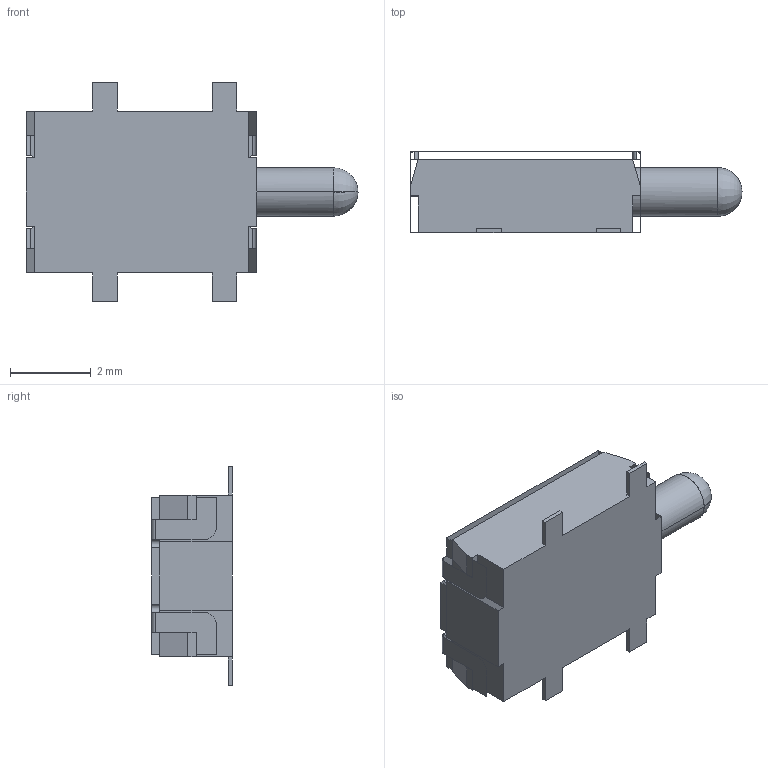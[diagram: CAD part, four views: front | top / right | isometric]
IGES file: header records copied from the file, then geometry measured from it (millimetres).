
Start section:  PTC IGES file: NDT010-G1A-AEAT-HIGH2.igs
Global section: file name: NDT010-G1A-AEAT-HIGH2.igs; native system: Pro/ENGINEER by Parametric Technology Corporation; preprocessor: 2008230; author: ken; organization: Unknown; date: 20090225.175016; units: millimetre
Bounding box: 8.2 x 2 x 5.4 mm (x, y, z)
Surface area: 101.7 mm2 (no closed solid volume)
Topology: 0 solids, 0 shells, 57 faces, 420 edges, 488 vertices
Faces by surface type: bspline 45, revolution 12
